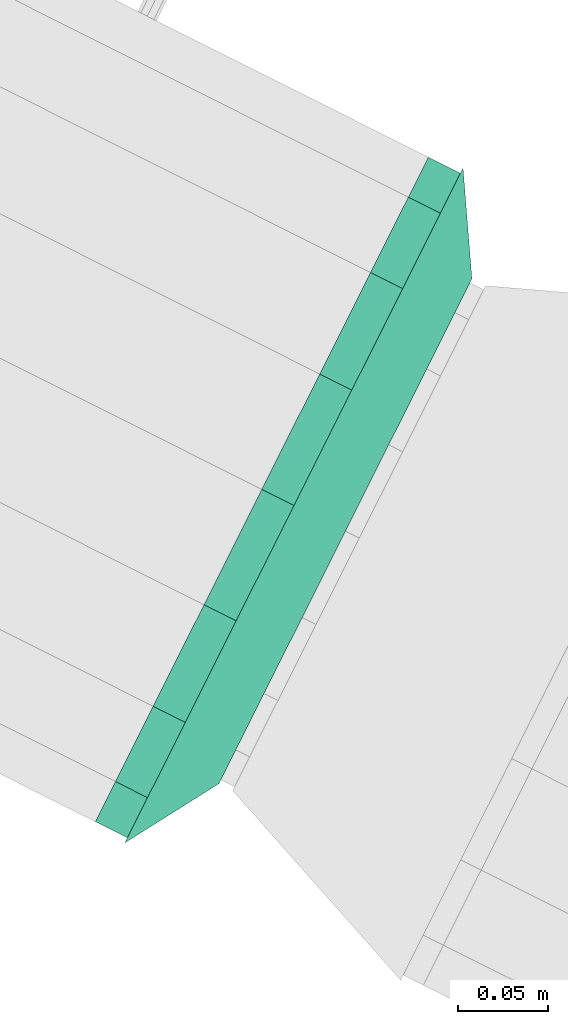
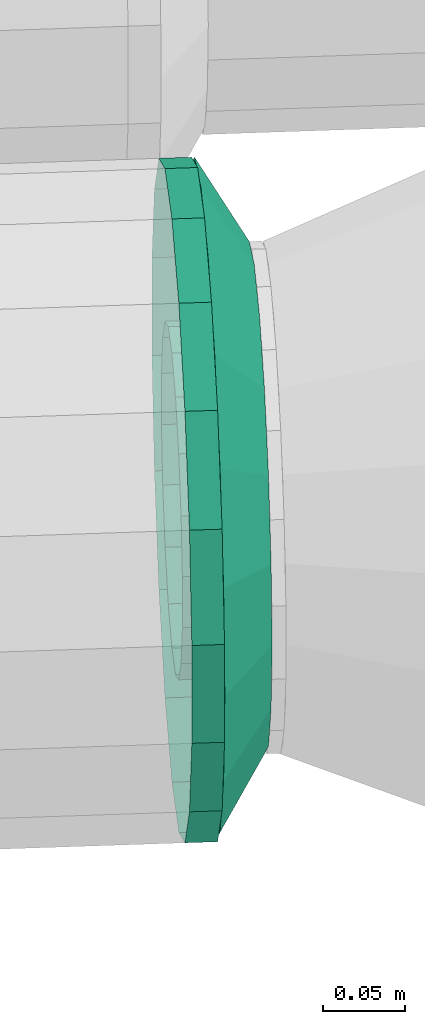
# One storey, part 31 of 152: 1 flow fitting.
"""IFC2X3 building model written with IfcOpenShell, lengths in metres."""

from ifc_helpers import new_model, si_unit, derived_unit, direction, frame, origin, place, context, subcontext, project, spatial, face_set, surface_model, source, transform, mapped, material, type_object, type_shapes, element, save


model = new_model("IFC2X3")

# Units and contexts
model_context = context("Model", 3, precision=5.2338327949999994e-05, world=origin(), true_north=direction((0.0, 1.0)))
body_context = subcontext(model_context, "Body", "Model", "MODEL_VIEW")
ifc_project = project(units=[si_unit("LENGTHUNIT", "METRE"), si_unit("AREAUNIT", "SQUARE_METRE"), si_unit("VOLUMEUNIT", "CUBIC_METRE"), si_unit("MASSUNIT", "GRAM", prefix="KILO"), si_unit("PLANEANGLEUNIT", "RADIAN"), derived_unit("THERMALTRANSMITTANCEUNIT", [(si_unit("MASSUNIT", "GRAM", prefix="KILO"), 1), (si_unit("THERMODYNAMICTEMPERATUREUNIT", "KELVIN"), -1), (si_unit("TIMEUNIT", "SECOND"), -3)])], contexts=[model_context])

# Site, building, storey
site_placement = place(None, frame((0.0, 0.0, 0.0), z_axis=(0.0, 0.0, 1.0), x_axis=(0.8939966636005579, -0.4480736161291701, 0.0)))
site = spatial("IfcSite", under=ifc_project, at=site_placement, Name="Default", CompositionType="ELEMENT")
building_placement = place(site_placement, origin())
building = spatial("IfcBuilding", under=site, at=building_placement, CompositionType="ELEMENT")
storey_placement = place(building_placement, frame((0.0, 0.0, 2.7499999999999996)))
storey = spatial("IfcBuildingStorey", under=building, at=storey_placement, Name="1. Obergeschoss", CompositionType="ELEMENT", Elevation=2.7499999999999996)

# Flow fitting
ifc_material = material(Name="IfcSurfaceStyle #9317")
distribution_element_type = type_object("IfcDistributionElementType", Name="Flansch 265680:Flansch 265680", material=ifc_material)
shared_shape = source(origin(), body_context, "Body", "SurfaceModel", [
    surface_model("IfcFaceBasedSurfaceModel", [(13.267928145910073, 5.856787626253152, 5.745640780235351), (13.267928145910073, 5.8191654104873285, 5.7390069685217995), (13.287928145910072, 5.8191654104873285, 5.7390069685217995), (13.287928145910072, 5.856787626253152, 5.745640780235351), (13.267928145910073, 5.7860809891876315, 5.719905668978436), (13.287928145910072, 5.7860809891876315, 5.719905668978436), (13.267928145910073, 5.761524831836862, 5.6906407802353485), (13.287928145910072, 5.761524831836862, 5.6906407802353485), (13.267928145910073, 5.74845877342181, 5.6547420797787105), (13.287928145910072, 5.74845877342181, 5.6547420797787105), (13.267928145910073, 5.74845877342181, 5.616539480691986), (13.287928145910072, 5.74845877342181, 5.616539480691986), (13.267928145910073, 5.761524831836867, 5.580640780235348), (13.287928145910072, 5.761524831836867, 5.580640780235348), (13.267928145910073, 5.786080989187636, 5.5513758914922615), (13.287928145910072, 5.786080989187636, 5.5513758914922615), (13.267928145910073, 5.81916541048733, 5.532274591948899), (13.287928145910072, 5.81916541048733, 5.532274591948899), (13.267928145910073, 5.856787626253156, 5.52564078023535), (13.287928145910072, 5.856787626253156, 5.52564078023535), (13.267928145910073, 5.894409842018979, 5.532274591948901), (13.287928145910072, 5.894409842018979, 5.532274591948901), (13.267928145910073, 5.927494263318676, 5.551375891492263), (13.287928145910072, 5.927494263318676, 5.551375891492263), (13.267928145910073, 5.952050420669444, 5.580640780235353), (13.287928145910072, 5.952050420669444, 5.580640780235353), (13.267928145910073, 5.965116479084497, 5.616539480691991), (13.287928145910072, 5.965116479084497, 5.616539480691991), (13.267928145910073, 5.965116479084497, 5.654742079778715), (13.287928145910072, 5.965116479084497, 5.654742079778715), (13.267928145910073, 5.952050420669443, 5.690640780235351), (13.287928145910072, 5.952050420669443, 5.690640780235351), (13.267928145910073, 5.927494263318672, 5.7199056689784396), (13.287928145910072, 5.927494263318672, 5.7199056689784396), (13.267928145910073, 5.894409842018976, 5.7390069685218), (13.287928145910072, 5.894409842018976, 5.7390069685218), (13.287928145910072, 5.856787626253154, 5.63564078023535), (13.287928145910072, 5.791287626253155, 5.635640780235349), (13.287928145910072, 5.795237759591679, 5.613238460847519), (13.319928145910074, 5.803084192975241, 5.616094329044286), (13.319928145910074, 5.799637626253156, 5.63564078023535), (13.287928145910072, 5.806611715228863, 5.593538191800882), (13.319928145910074, 5.813008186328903, 5.598905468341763), (13.287928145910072, 5.824037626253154, 5.578916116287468), (13.319928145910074, 5.828212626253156, 5.58614742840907), (13.287928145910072, 5.84541367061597, 5.571135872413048), (13.319928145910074, 5.846863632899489, 5.579359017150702), (13.287928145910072, 5.868161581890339, 5.571135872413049), (13.319928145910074, 5.866711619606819, 5.579359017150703), (13.287928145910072, 5.889537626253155, 5.578916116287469), (13.319928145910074, 5.885362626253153, 5.586147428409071), (13.287928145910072, 5.9069635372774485, 5.593538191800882), (13.319928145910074, 5.900567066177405, 5.5989054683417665), (13.287928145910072, 5.91833749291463, 5.613238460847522), (13.319928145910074, 5.9104910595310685, 5.61609432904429), (13.287928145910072, 5.922287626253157, 5.6356407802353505), (13.319928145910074, 5.913937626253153, 5.635640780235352), (13.287928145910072, 5.918337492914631, 5.658043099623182), (13.319928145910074, 5.910491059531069, 5.655187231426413), (13.287928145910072, 5.906963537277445, 5.677743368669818), (13.319928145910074, 5.900567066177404, 5.672376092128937), (13.287928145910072, 5.889537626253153, 5.69236544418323), (13.319928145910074, 5.885362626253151, 5.685134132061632), (13.287928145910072, 5.8681615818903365, 5.700145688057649), (13.319928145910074, 5.866711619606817, 5.691922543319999), (13.287928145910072, 5.84541367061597, 5.700145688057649), (13.319928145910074, 5.846863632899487, 5.691922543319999), (13.287928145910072, 5.824037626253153, 5.692365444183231), (13.319928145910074, 5.828212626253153, 5.6851341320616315), (13.287928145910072, 5.806611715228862, 5.677743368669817), (13.319928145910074, 5.813008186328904, 5.6723760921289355), (13.287928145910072, 5.795237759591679, 5.65804309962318), (13.319928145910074, 5.803084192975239, 5.655187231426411), (13.267928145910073, 5.856787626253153, 5.8456407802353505), (13.267928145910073, 5.78496339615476, 5.832976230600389), (13.287928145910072, 5.78496339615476, 5.832976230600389), (13.287928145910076, 5.856787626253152, 5.84564078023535), (13.267928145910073, 5.721802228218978, 5.796510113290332), (13.287928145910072, 5.721802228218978, 5.796510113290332), (13.267928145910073, 5.674922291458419, 5.7406407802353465), (13.287928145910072, 5.674922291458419, 5.7406407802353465), (13.267928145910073, 5.64997799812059, 5.672106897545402), (13.287928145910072, 5.64997799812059, 5.672106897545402), (13.267928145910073, 5.6499779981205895, 5.599174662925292), (13.287928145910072, 5.6499779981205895, 5.599174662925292), (13.267928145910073, 5.674922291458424, 5.5306407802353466), (13.287928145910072, 5.674922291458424, 5.5306407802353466), (13.267928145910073, 5.7218022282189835, 5.474771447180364), (13.287928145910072, 5.7218022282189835, 5.474771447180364), (13.267928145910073, 5.784963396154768, 5.438305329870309), (13.287928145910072, 5.784963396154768, 5.438305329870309), (13.267928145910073, 5.8567876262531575, 5.42564078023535), (13.287928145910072, 5.8567876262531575, 5.42564078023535), (13.267928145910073, 5.928611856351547, 5.43830532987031), (13.287928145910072, 5.928611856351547, 5.43830532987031), (13.267928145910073, 5.991773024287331, 5.474771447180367), (13.287928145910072, 5.991773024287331, 5.474771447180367), (13.267928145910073, 6.0386529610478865, 5.530640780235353), (13.287928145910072, 6.0386529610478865, 5.530640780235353), (13.267928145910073, 6.063597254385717, 5.599174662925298), (13.287928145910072, 6.063597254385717, 5.599174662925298), (13.267928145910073, 6.063597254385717, 5.672106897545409), (13.287928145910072, 6.063597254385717, 5.672106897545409), (13.267928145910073, 6.038652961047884, 5.740640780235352), (13.287928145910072, 6.038652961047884, 5.740640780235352), (13.267928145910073, 5.9917730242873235, 5.796510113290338), (13.287928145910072, 5.9917730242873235, 5.796510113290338), (13.267928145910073, 5.92861185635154, 5.832976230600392), (13.287928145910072, 5.92861185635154, 5.832976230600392), (13.287928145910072, 5.646787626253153, 5.635640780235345), (13.287928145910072, 5.659452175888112, 5.563816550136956), (13.319928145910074, 5.709114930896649, 5.58189231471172), (13.319928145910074, 5.699637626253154, 5.635640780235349), (13.287928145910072, 5.695918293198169, 5.500655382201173), (13.319928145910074, 5.736403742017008, 5.534626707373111), (13.287928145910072, 5.751787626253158, 5.453775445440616), (13.319928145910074, 5.778212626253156, 5.4995448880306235), (13.287928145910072, 5.820321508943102, 5.428831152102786), (13.319928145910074, 5.829498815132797, 5.4808782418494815), (13.287928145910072, 5.893253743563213, 5.428831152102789), (13.319928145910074, 5.884076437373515, 5.480878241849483), (13.287928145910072, 5.961787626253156, 5.453775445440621), (13.319928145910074, 5.935362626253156, 5.499544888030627), (13.287928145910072, 6.017656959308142, 5.500655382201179), (13.319928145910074, 5.977171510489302, 5.534626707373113), (13.287928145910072, 6.054123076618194, 5.5638165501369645), (13.319928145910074, 6.004460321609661, 5.581892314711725), (13.287928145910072, 6.066787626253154, 5.635640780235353), (13.319928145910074, 6.0139376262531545, 5.635640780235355), (13.287928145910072, 6.054123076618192, 5.707465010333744), (13.319928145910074, 6.00446032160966, 5.689389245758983), (13.287928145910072, 6.0176569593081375, 5.770626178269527), (13.319928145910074, 5.977171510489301, 5.736654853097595), (13.287928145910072, 5.96178762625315, 5.817506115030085), (13.319928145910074, 5.935362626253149, 5.771736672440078), (13.287928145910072, 5.893253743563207, 5.842450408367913), (13.319928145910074, 5.884076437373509, 5.79040331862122), (13.287928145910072, 5.820321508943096, 5.842450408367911), (13.319928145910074, 5.829498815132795, 5.79040331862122), (13.287928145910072, 5.75178762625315, 5.81750611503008), (13.319928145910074, 5.7782126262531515, 5.771736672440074), (13.287928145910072, 5.695918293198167, 5.770626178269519), (13.319928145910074, 5.736403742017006, 5.7366548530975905), (13.287928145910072, 5.659452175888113, 5.707465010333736), (13.319928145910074, 5.7091149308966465, 5.689389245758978)], [face_set([[[0, 1, 2, 3]], [[1, 4, 5, 2]], [[4, 6, 7, 5]], [[6, 8, 9, 7]], [[8, 10, 11, 9]], [[10, 12, 13, 11]], [[12, 14, 15, 13]], [[14, 16, 17, 15]], [[16, 18, 19, 17]], [[18, 20, 21, 19]], [[20, 22, 23, 21]], [[22, 24, 25, 23]], [[24, 26, 27, 25]], [[26, 28, 29, 27]], [[28, 30, 31, 29]], [[30, 32, 33, 31]], [[32, 34, 35, 33]], [[34, 0, 3, 35]], [[36, 35, 3]], [[36, 33, 35]], [[36, 31, 33]], [[36, 29, 31]], [[36, 27, 29]], [[36, 25, 27]], [[36, 23, 25]], [[36, 21, 23]], [[36, 19, 21]], [[36, 17, 19]], [[36, 15, 17]], [[36, 13, 15]], [[36, 11, 13]], [[36, 9, 11]], [[36, 7, 9]], [[36, 5, 7]], [[36, 2, 5]], [[36, 3, 2]], [[37, 38, 39, 40]], [[38, 41, 42, 39]], [[41, 43, 44, 42]], [[43, 45, 46, 44]], [[45, 47, 48, 46]], [[47, 49, 50, 48]], [[49, 51, 52, 50]], [[51, 53, 54, 52]], [[53, 55, 56, 54]], [[55, 57, 58, 56]], [[57, 59, 60, 58]], [[59, 61, 62, 60]], [[61, 63, 64, 62]], [[63, 65, 66, 64]], [[65, 67, 68, 66]], [[67, 69, 70, 68]], [[69, 71, 72, 70]], [[71, 37, 40, 72]], [[73, 74, 75, 76]], [[74, 77, 78, 75]], [[77, 79, 80, 78]], [[79, 81, 82, 80]], [[81, 83, 84, 82]], [[83, 85, 86, 84]], [[85, 87, 88, 86]], [[87, 89, 90, 88]], [[89, 91, 92, 90]], [[91, 93, 94, 92]], [[93, 95, 96, 94]], [[95, 97, 98, 96]], [[97, 99, 100, 98]], [[99, 101, 102, 100]], [[101, 103, 104, 102]], [[103, 105, 106, 104]], [[105, 107, 108, 106]], [[107, 73, 76, 108]], [[109, 110, 111, 112]], [[110, 113, 114, 111]], [[113, 115, 116, 114]], [[115, 117, 118, 116]], [[117, 119, 120, 118]], [[119, 121, 122, 120]], [[121, 123, 124, 122]], [[123, 125, 126, 124]], [[125, 127, 128, 126]], [[127, 129, 130, 128]], [[129, 131, 132, 130]], [[131, 133, 134, 132]], [[133, 135, 136, 134]], [[135, 137, 138, 136]], [[137, 139, 140, 138]], [[139, 141, 142, 140]], [[141, 143, 144, 142]], [[143, 109, 112, 144]]])]),
])
type_shapes(distribution_element_type, [shared_shape])
flow_fitting_placement = place(storey_placement, frame((0.0, 0.0, -2.7499999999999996)))
element("IfcFlowFitting", 1, at=flow_fitting_placement, inside=storey, type_object=distribution_element_type, material=ifc_material, Name="Flansch", ObjectType="Flansch", context=body_context, shape_type="MappedRepresentation", body=[
    mapped(shared_shape, transform((0.0, 0.0, 0.0), scale=1.0)),
])

save(model, "model.ifc")
